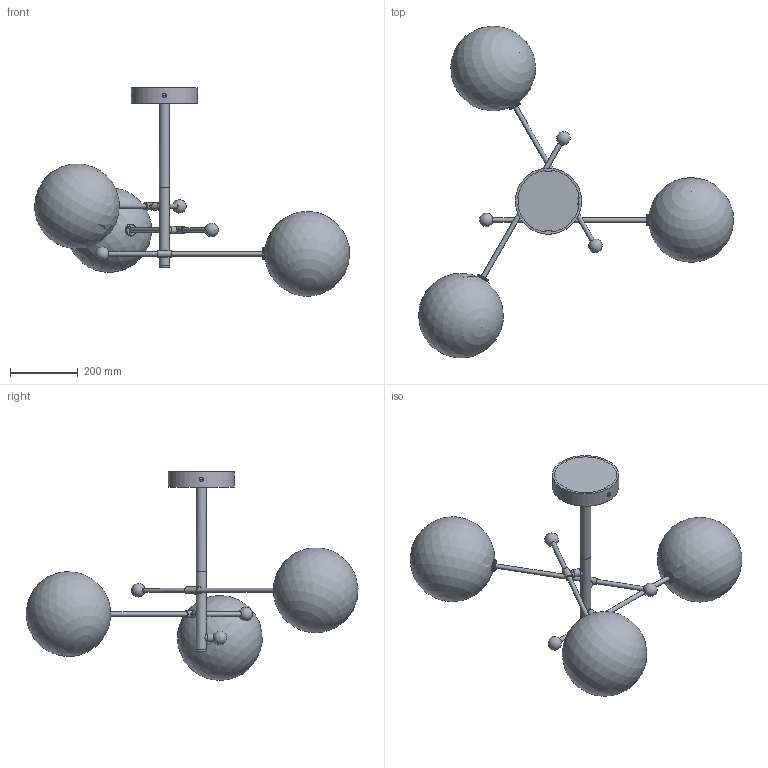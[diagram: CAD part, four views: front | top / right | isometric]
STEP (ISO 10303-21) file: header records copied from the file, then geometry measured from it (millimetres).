
FILE_DESCRIPTION(/* description */ (''),/* implementation_level */ '2;1');
FILE_NAME(/* name */ 'T:\B079 RD 15 3 ARM\Pliki bryłowe handlowe\B079 RD15 3 Arms.stp',/* time_stamp */ '2022-01-19T16:06:30+01:00',/* author */ ('Mariusz Awariusz'),/* organization */ (''),/* preprocessor_version */ 'ST-DEVELOPER v18.1',/* originating_system */ 'Autodesk Inventor 2022',/* authorisation */ '');
FILE_SCHEMA (('AUTOMOTIVE_DESIGN { 1 0 10303 214 3 1 1 }'));
Length unit declared in the file: millimetre
Products named in the file (1): B079 RD15 3 Arms Chandelier CE V5_na potrzeby plików 3D_jako część
Bounding box: 926.18 x 977.28 x 613.95 mm (x, y, z)
Volume: 3192277.1 mm3; surface area: 1382824 mm2
Topology: 1 solids, 10 shells, 238 faces, 510 edges, 334 vertices
Faces by surface type: plane 106, cylinder 68, cone 46, sphere 9, torus 6, bspline 3
Full cylindrical faces by diameter (mm): 3 x16, 10 x3, 11.6 x6, 11.917 x6, 13 x12, 20 x3, 22 x6, 30 x3, 33 x3, 35 x3, 195 x1
Entity records: 7285 total; most frequent: CARTESIAN_POINT 1976, DIRECTION 1176, ORIENTED_EDGE 984, AXIS2_PLACEMENT_3D 505, EDGE_CURVE 492, VERTEX_POINT 334, EDGE_LOOP 320, CIRCLE 269
